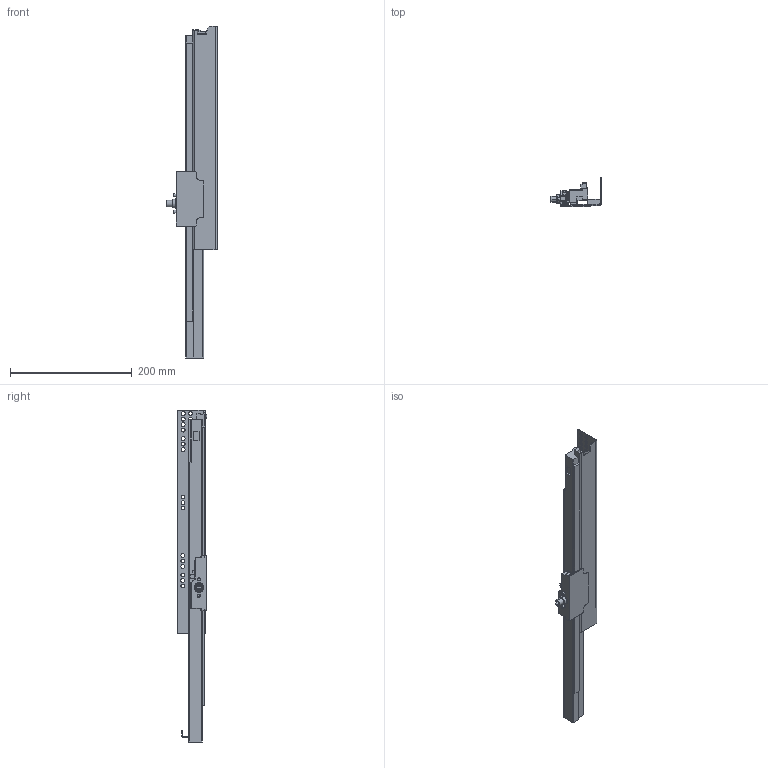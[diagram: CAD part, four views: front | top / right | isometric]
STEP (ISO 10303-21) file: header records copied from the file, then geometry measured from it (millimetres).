
FILE_DESCRIPTION (( 'STEP AP203' ), '1' );
FILE_NAME ('TF10550H-R-DTC3D-close.STEP', '2021-06-03T01:52:55', ( 'df' ), ( 'Microsoft' ), 'SwSTEP 2.0', 'SolidWorks 2018', '' );
FILE_SCHEMA (( 'CONFIG_CONTROL_DESIGN' ));
Length unit declared in the file: millimetre
Products named in the file (1): TF10550H-R-DTC3D-close
Bounding box: 83.3 x 48 x 545.27 mm (x, y, z)
Volume: 438318.5 mm3; surface area: 129971.4 mm2
Topology: 1 solids, 4 shells, 518 faces, 1341 edges, 827 vertices
Faces by surface type: cylinder 247, plane 163, bspline 102, sphere 4, torus 2
Entity records: 18032 total; most frequent: CARTESIAN_POINT 5541, ORIENTED_EDGE 2660, DIRECTION 2567, EDGE_CURVE 1330, AXIS2_PLACEMENT_3D 955, VERTEX_POINT 827, VECTOR 657, LINE 657
